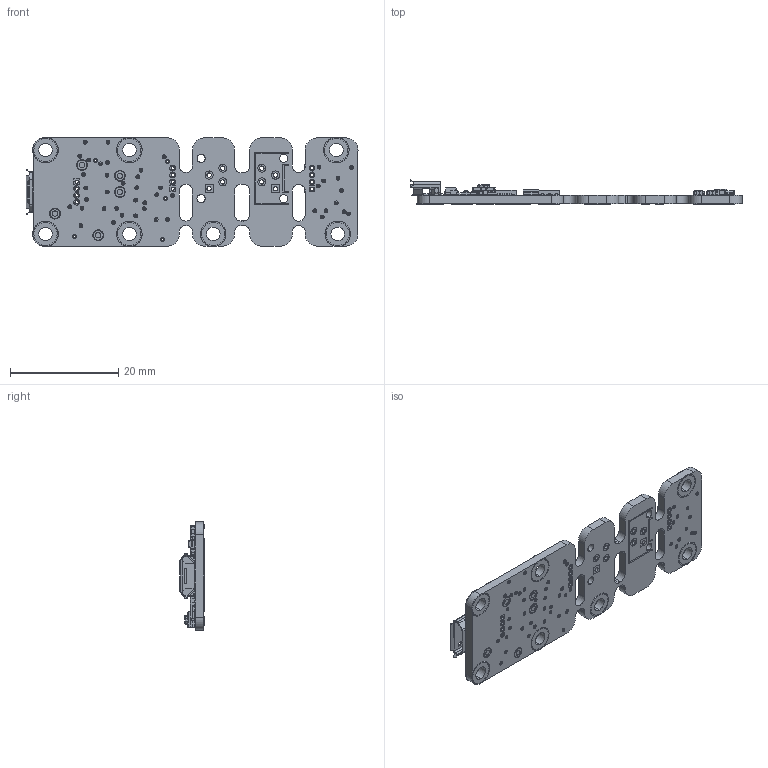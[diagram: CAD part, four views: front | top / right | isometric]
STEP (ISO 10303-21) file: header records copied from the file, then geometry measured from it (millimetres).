
FILE_DESCRIPTION (( 'STEP AP214' ), '1' );
FILE_NAME ('METEOMK2.STEP', '2022-01-13T09:55:19', ( '' ), ( '' ), 'SwSTEP 2.0', 'SolidWorks 2008', '' );
FILE_SCHEMA (( 'AUTOMOTIVE_DESIGN' ));
Length unit declared in the file: millimetre
Products named in the file (1): METEOMK2
Bounding box: 61.35 x 4.46 x 20.2 mm (x, y, z)
Surface area: 3250.8 mm2 (no closed solid volume)
Topology: 0 solids, 201 shells, 2865 faces, 11276 edges, 8510 vertices
Faces by surface type: plane 1726, cylinder 1010, sphere 75, bspline 45, torus 9
Entity records: 162124 total; most frequent: CARTESIAN_POINT 38834, DIRECTION 18404, ORIENTED_EDGE 16455, EDGE_CURVE 11201, VERTEX_POINT 8510, VECTOR 7502, LINE 7502, AXIS2_PLACEMENT_3D 5451
